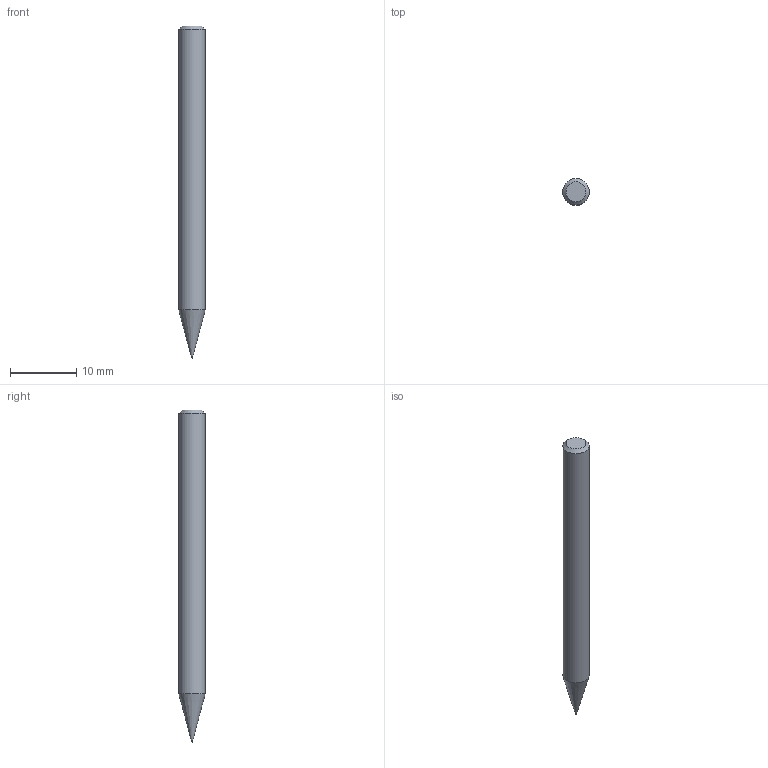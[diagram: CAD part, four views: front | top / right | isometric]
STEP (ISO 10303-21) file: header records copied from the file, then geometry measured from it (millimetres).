
FILE_DESCRIPTION((''),'2;1');
FILE_NAME('C:\Users\nsx150\AppData\Local\Temp\Mastercam 2021\LJSIDMOTM8\TEMP.step','2021-08-03T14:22:46',(''),(''),'STEP Write','Mastercam 2021 ... CNC Software, Inc.','');
FILE_SCHEMA(('AUTOMOTIVE_DESIGN'));
Length unit declared in the file: millimetre
Products named in the file (1): None
Bounding box: 4 x 4 x 50 mm (x, y, z)
Volume: 567.1 mm3; surface area: 594.6 mm2
Topology: 2 solids, 2 shells, 9 faces, 14 edges, 8 vertices
Faces by surface type: plane 3, cylinder 3, cone 2, sphere 1
Full cylindrical faces by diameter (mm): 0.28 x1, 0.3 x1, 4 x1
Entity records: 211 total; most frequent: DIRECTION 36, CARTESIAN_POINT 25, AXIS2_PLACEMENT_3D 18, ORIENTED_EDGE 14, EDGE_LOOP 14, STYLED_ITEM 12, ADVANCED_FACE 9, FACE_BOUND 8
